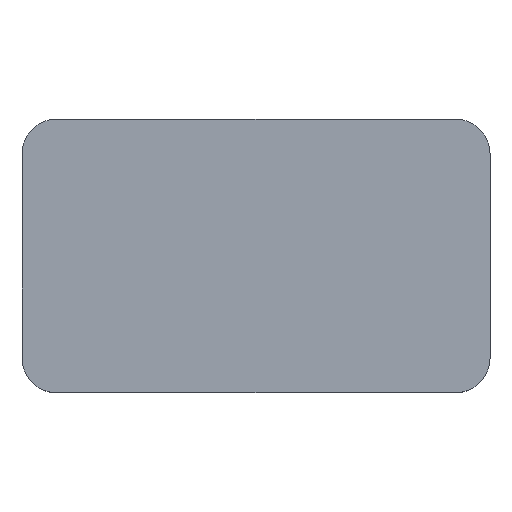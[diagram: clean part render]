
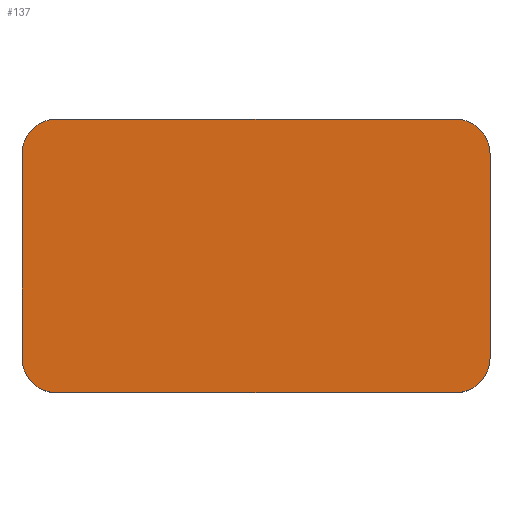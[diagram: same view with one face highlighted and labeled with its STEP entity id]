
A CAD part, top view. The second image highlights one B-rep face of the part: STEP entity #137.
In plain terms, the highlighted planar face has unit normal (0, 0, 1).
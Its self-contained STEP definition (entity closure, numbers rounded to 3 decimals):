
#21 = EDGE_CURVE('',#22,#24,#26,.T.);
#22 = VERTEX_POINT('',#23);
#23 = CARTESIAN_POINT('',(-325.,-142.,120.));
#24 = VERTEX_POINT('',#25);
#25 = CARTESIAN_POINT('',(-325.,142.,120.));
#26 = SURFACE_CURVE('',#27,(#31,#43),.PCURVE_S1.);
#27 = LINE('',#28,#29);
#28 = CARTESIAN_POINT('',(-325.,-190.,120.));
#29 = VECTOR('',#30,1.);
#30 = DIRECTION('',(0.,1.,0.));
#31 = PCURVE('',#32,#37);
#32 = PLANE('',#33);
#33 = AXIS2_PLACEMENT_3D('',#34,#35,#36);
#34 = CARTESIAN_POINT('',(-325.,-190.,0.));
#35 = DIRECTION('',(1.,0.,0.));
#36 = DIRECTION('',(0.,0.,1.));
#37 = DEFINITIONAL_REPRESENTATION('',(#38),#42);
#38 = LINE('',#39,#40);
#39 = CARTESIAN_POINT('',(120.,0.));
#40 = VECTOR('',#41,1.);
#41 = DIRECTION('',(0.,-1.));
#42 = ( GEOMETRIC_REPRESENTATION_CONTEXT(2) 
PARAMETRIC_REPRESENTATION_CONTEXT() REPRESENTATION_CONTEXT('2D SPACE',''
  ) );
#43 = PCURVE('',#44,#49);
#44 = PLANE('',#45);
#45 = AXIS2_PLACEMENT_3D('',#46,#47,#48);
#46 = CARTESIAN_POINT('',(-325.,-190.,120.));
#47 = DIRECTION('',(0.,0.,1.));
#48 = DIRECTION('',(1.,0.,0.));
#49 = DEFINITIONAL_REPRESENTATION('',(#50),#54);
#50 = LINE('',#51,#52);
#51 = CARTESIAN_POINT('',(0.,0.));
#52 = VECTOR('',#53,1.);
#53 = DIRECTION('',(0.,1.));
#54 = ( GEOMETRIC_REPRESENTATION_CONTEXT(2) 
PARAMETRIC_REPRESENTATION_CONTEXT() REPRESENTATION_CONTEXT('2D SPACE',''
  ) );
#72 = CYLINDRICAL_SURFACE('',#73,48.);
#73 = AXIS2_PLACEMENT_3D('',#74,#75,#76);
#74 = CARTESIAN_POINT('',(-277.,-142.,0.));
#75 = DIRECTION('',(0.,0.,1.));
#76 = DIRECTION('',(-1.,-0.,0.));
#126 = CYLINDRICAL_SURFACE('',#127,48.);
#127 = AXIS2_PLACEMENT_3D('',#128,#129,#130);
#128 = CARTESIAN_POINT('',(-277.,142.,0.));
#129 = DIRECTION('',(0.,0.,1.));
#130 = DIRECTION('',(-1.,-0.,0.));
#137 = ADVANCED_FACE('',(#138),#44,.T.);
#138 = FACE_BOUND('',#139,.T.);
#139 = EDGE_LOOP('',(#140,#141,#165,#193,#226,#254,#283,#311));
#140 = ORIENTED_EDGE('',*,*,#21,.F.);
#141 = ORIENTED_EDGE('',*,*,#142,.T.);
#142 = EDGE_CURVE('',#22,#143,#145,.T.);
#143 = VERTEX_POINT('',#144);
#144 = CARTESIAN_POINT('',(-277.,-190.,120.));
#145 = SURFACE_CURVE('',#146,(#151,#158),.PCURVE_S1.);
#146 = CIRCLE('',#147,48.);
#147 = AXIS2_PLACEMENT_3D('',#148,#149,#150);
#148 = CARTESIAN_POINT('',(-277.,-142.,120.));
#149 = DIRECTION('',(0.,0.,1.));
#150 = DIRECTION('',(0.,-1.,0.));
#151 = PCURVE('',#44,#152);
#152 = DEFINITIONAL_REPRESENTATION('',(#153),#157);
#153 = CIRCLE('',#154,48.);
#154 = AXIS2_PLACEMENT_2D('',#155,#156);
#155 = CARTESIAN_POINT('',(48.,48.));
#156 = DIRECTION('',(0.,-1.));
#157 = ( GEOMETRIC_REPRESENTATION_CONTEXT(2) 
PARAMETRIC_REPRESENTATION_CONTEXT() REPRESENTATION_CONTEXT('2D SPACE',''
  ) );
#158 = PCURVE('',#72,#159);
#159 = DEFINITIONAL_REPRESENTATION('',(#160),#164);
#160 = LINE('',#161,#162);
#161 = CARTESIAN_POINT('',(-4.712,120.));
#162 = VECTOR('',#163,1.);
#163 = DIRECTION('',(1.,0.));
#164 = ( GEOMETRIC_REPRESENTATION_CONTEXT(2) 
PARAMETRIC_REPRESENTATION_CONTEXT() REPRESENTATION_CONTEXT('2D SPACE',''
  ) );
#165 = ORIENTED_EDGE('',*,*,#166,.T.);
#166 = EDGE_CURVE('',#143,#167,#169,.T.);
#167 = VERTEX_POINT('',#168);
#168 = CARTESIAN_POINT('',(277.,-190.,120.));
#169 = SURFACE_CURVE('',#170,(#174,#181),.PCURVE_S1.);
#170 = LINE('',#171,#172);
#171 = CARTESIAN_POINT('',(-325.,-190.,120.));
#172 = VECTOR('',#173,1.);
#173 = DIRECTION('',(1.,0.,0.));
#174 = PCURVE('',#44,#175);
#175 = DEFINITIONAL_REPRESENTATION('',(#176),#180);
#176 = LINE('',#177,#178);
#177 = CARTESIAN_POINT('',(0.,0.));
#178 = VECTOR('',#179,1.);
#179 = DIRECTION('',(1.,0.));
#180 = ( GEOMETRIC_REPRESENTATION_CONTEXT(2) 
PARAMETRIC_REPRESENTATION_CONTEXT() REPRESENTATION_CONTEXT('2D SPACE',''
  ) );
#181 = PCURVE('',#182,#187);
#182 = PLANE('',#183);
#183 = AXIS2_PLACEMENT_3D('',#184,#185,#186);
#184 = CARTESIAN_POINT('',(-325.,-190.,0.));
#185 = DIRECTION('',(0.,1.,0.));
#186 = DIRECTION('',(0.,0.,1.));
#187 = DEFINITIONAL_REPRESENTATION('',(#188),#192);
#188 = LINE('',#189,#190);
#189 = CARTESIAN_POINT('',(120.,0.));
#190 = VECTOR('',#191,1.);
#191 = DIRECTION('',(0.,1.));
#192 = ( GEOMETRIC_REPRESENTATION_CONTEXT(2) 
PARAMETRIC_REPRESENTATION_CONTEXT() REPRESENTATION_CONTEXT('2D SPACE',''
  ) );
#193 = ORIENTED_EDGE('',*,*,#194,.F.);
#194 = EDGE_CURVE('',#195,#167,#197,.T.);
#195 = VERTEX_POINT('',#196);
#196 = CARTESIAN_POINT('',(325.,-142.,120.));
#197 = SURFACE_CURVE('',#198,(#203,#214),.PCURVE_S1.);
#198 = CIRCLE('',#199,48.);
#199 = AXIS2_PLACEMENT_3D('',#200,#201,#202);
#200 = CARTESIAN_POINT('',(277.,-142.,120.));
#201 = DIRECTION('',(-0.,-0.,-1.));
#202 = DIRECTION('',(0.,-1.,0.));
#203 = PCURVE('',#44,#204);
#204 = DEFINITIONAL_REPRESENTATION('',(#205),#213);
#205 = ( BOUNDED_CURVE() B_SPLINE_CURVE(2,(#206,#207,#208,#209,#210,#211
,#212),.UNSPECIFIED.,.T.,.F.) B_SPLINE_CURVE_WITH_KNOTS((1,2,2,2,2,1),(
    -2.094,0.,2.094,4.189,6.283,
8.378),.UNSPECIFIED.) CURVE() GEOMETRIC_REPRESENTATION_ITEM() 
RATIONAL_B_SPLINE_CURVE((1.,0.5,1.,0.5,1.,0.5,1.)) REPRESENTATION_ITEM(
  '') );
#206 = CARTESIAN_POINT('',(602.,0.));
#207 = CARTESIAN_POINT('',(518.862,0.));
#208 = CARTESIAN_POINT('',(560.431,72.));
#209 = CARTESIAN_POINT('',(602.,144.));
#210 = CARTESIAN_POINT('',(643.569,72.));
#211 = CARTESIAN_POINT('',(685.138,0.));
#212 = CARTESIAN_POINT('',(602.,0.));
#213 = ( GEOMETRIC_REPRESENTATION_CONTEXT(2) 
PARAMETRIC_REPRESENTATION_CONTEXT() REPRESENTATION_CONTEXT('2D SPACE',''
  ) );
#214 = PCURVE('',#215,#220);
#215 = CYLINDRICAL_SURFACE('',#216,48.);
#216 = AXIS2_PLACEMENT_3D('',#217,#218,#219);
#217 = CARTESIAN_POINT('',(277.,-142.,0.));
#218 = DIRECTION('',(0.,0.,1.));
#219 = DIRECTION('',(1.,0.,-0.));
#220 = DEFINITIONAL_REPRESENTATION('',(#221),#225);
#221 = LINE('',#222,#223);
#222 = CARTESIAN_POINT('',(4.712,120.));
#223 = VECTOR('',#224,1.);
#224 = DIRECTION('',(-1.,0.));
#225 = ( GEOMETRIC_REPRESENTATION_CONTEXT(2) 
PARAMETRIC_REPRESENTATION_CONTEXT() REPRESENTATION_CONTEXT('2D SPACE',''
  ) );
#226 = ORIENTED_EDGE('',*,*,#227,.T.);
#227 = EDGE_CURVE('',#195,#228,#230,.T.);
#228 = VERTEX_POINT('',#229);
#229 = CARTESIAN_POINT('',(325.,142.,120.));
#230 = SURFACE_CURVE('',#231,(#235,#242),.PCURVE_S1.);
#231 = LINE('',#232,#233);
#232 = CARTESIAN_POINT('',(325.,-190.,120.));
#233 = VECTOR('',#234,1.);
#234 = DIRECTION('',(0.,1.,0.));
#235 = PCURVE('',#44,#236);
#236 = DEFINITIONAL_REPRESENTATION('',(#237),#241);
#237 = LINE('',#238,#239);
#238 = CARTESIAN_POINT('',(650.,0.));
#239 = VECTOR('',#240,1.);
#240 = DIRECTION('',(0.,1.));
#241 = ( GEOMETRIC_REPRESENTATION_CONTEXT(2) 
PARAMETRIC_REPRESENTATION_CONTEXT() REPRESENTATION_CONTEXT('2D SPACE',''
  ) );
#242 = PCURVE('',#243,#248);
#243 = PLANE('',#244);
#244 = AXIS2_PLACEMENT_3D('',#245,#246,#247);
#245 = CARTESIAN_POINT('',(325.,-190.,0.));
#246 = DIRECTION('',(1.,0.,0.));
#247 = DIRECTION('',(0.,0.,1.));
#248 = DEFINITIONAL_REPRESENTATION('',(#249),#253);
#249 = LINE('',#250,#251);
#250 = CARTESIAN_POINT('',(120.,0.));
#251 = VECTOR('',#252,1.);
#252 = DIRECTION('',(0.,-1.));
#253 = ( GEOMETRIC_REPRESENTATION_CONTEXT(2) 
PARAMETRIC_REPRESENTATION_CONTEXT() REPRESENTATION_CONTEXT('2D SPACE',''
  ) );
#254 = ORIENTED_EDGE('',*,*,#255,.T.);
#255 = EDGE_CURVE('',#228,#256,#258,.T.);
#256 = VERTEX_POINT('',#257);
#257 = CARTESIAN_POINT('',(277.,190.,120.));
#258 = SURFACE_CURVE('',#259,(#264,#271),.PCURVE_S1.);
#259 = CIRCLE('',#260,48.);
#260 = AXIS2_PLACEMENT_3D('',#261,#262,#263);
#261 = CARTESIAN_POINT('',(277.,142.,120.));
#262 = DIRECTION('',(0.,0.,1.));
#263 = DIRECTION('',(0.,-1.,0.));
#264 = PCURVE('',#44,#265);
#265 = DEFINITIONAL_REPRESENTATION('',(#266),#270);
#266 = CIRCLE('',#267,48.);
#267 = AXIS2_PLACEMENT_2D('',#268,#269);
#268 = CARTESIAN_POINT('',(602.,332.));
#269 = DIRECTION('',(0.,-1.));
#270 = ( GEOMETRIC_REPRESENTATION_CONTEXT(2) 
PARAMETRIC_REPRESENTATION_CONTEXT() REPRESENTATION_CONTEXT('2D SPACE',''
  ) );
#271 = PCURVE('',#272,#277);
#272 = CYLINDRICAL_SURFACE('',#273,48.);
#273 = AXIS2_PLACEMENT_3D('',#274,#275,#276);
#274 = CARTESIAN_POINT('',(277.,142.,0.));
#275 = DIRECTION('',(0.,0.,1.));
#276 = DIRECTION('',(1.,0.,-0.));
#277 = DEFINITIONAL_REPRESENTATION('',(#278),#282);
#278 = LINE('',#279,#280);
#279 = CARTESIAN_POINT('',(-1.571,120.));
#280 = VECTOR('',#281,1.);
#281 = DIRECTION('',(1.,0.));
#282 = ( GEOMETRIC_REPRESENTATION_CONTEXT(2) 
PARAMETRIC_REPRESENTATION_CONTEXT() REPRESENTATION_CONTEXT('2D SPACE',''
  ) );
#283 = ORIENTED_EDGE('',*,*,#284,.F.);
#284 = EDGE_CURVE('',#285,#256,#287,.T.);
#285 = VERTEX_POINT('',#286);
#286 = CARTESIAN_POINT('',(-277.,190.,120.));
#287 = SURFACE_CURVE('',#288,(#292,#299),.PCURVE_S1.);
#288 = LINE('',#289,#290);
#289 = CARTESIAN_POINT('',(-325.,190.,120.));
#290 = VECTOR('',#291,1.);
#291 = DIRECTION('',(1.,0.,0.));
#292 = PCURVE('',#44,#293);
#293 = DEFINITIONAL_REPRESENTATION('',(#294),#298);
#294 = LINE('',#295,#296);
#295 = CARTESIAN_POINT('',(0.,380.));
#296 = VECTOR('',#297,1.);
#297 = DIRECTION('',(1.,0.));
#298 = ( GEOMETRIC_REPRESENTATION_CONTEXT(2) 
PARAMETRIC_REPRESENTATION_CONTEXT() REPRESENTATION_CONTEXT('2D SPACE',''
  ) );
#299 = PCURVE('',#300,#305);
#300 = PLANE('',#301);
#301 = AXIS2_PLACEMENT_3D('',#302,#303,#304);
#302 = CARTESIAN_POINT('',(-325.,190.,0.));
#303 = DIRECTION('',(0.,1.,0.));
#304 = DIRECTION('',(0.,0.,1.));
#305 = DEFINITIONAL_REPRESENTATION('',(#306),#310);
#306 = LINE('',#307,#308);
#307 = CARTESIAN_POINT('',(120.,0.));
#308 = VECTOR('',#309,1.);
#309 = DIRECTION('',(0.,1.));
#310 = ( GEOMETRIC_REPRESENTATION_CONTEXT(2) 
PARAMETRIC_REPRESENTATION_CONTEXT() REPRESENTATION_CONTEXT('2D SPACE',''
  ) );
#311 = ORIENTED_EDGE('',*,*,#312,.F.);
#312 = EDGE_CURVE('',#24,#285,#313,.T.);
#313 = SURFACE_CURVE('',#314,(#319,#330),.PCURVE_S1.);
#314 = CIRCLE('',#315,48.);
#315 = AXIS2_PLACEMENT_3D('',#316,#317,#318);
#316 = CARTESIAN_POINT('',(-277.,142.,120.));
#317 = DIRECTION('',(-0.,-0.,-1.));
#318 = DIRECTION('',(0.,-1.,0.));
#319 = PCURVE('',#44,#320);
#320 = DEFINITIONAL_REPRESENTATION('',(#321),#329);
#321 = ( BOUNDED_CURVE() B_SPLINE_CURVE(2,(#322,#323,#324,#325,#326,#327
,#328),.UNSPECIFIED.,.T.,.F.) B_SPLINE_CURVE_WITH_KNOTS((1,2,2,2,2,1),(
    -2.094,0.,2.094,4.189,6.283,
8.378),.UNSPECIFIED.) CURVE() GEOMETRIC_REPRESENTATION_ITEM() 
RATIONAL_B_SPLINE_CURVE((1.,0.5,1.,0.5,1.,0.5,1.)) REPRESENTATION_ITEM(
  '') );
#322 = CARTESIAN_POINT('',(48.,284.));
#323 = CARTESIAN_POINT('',(-35.138,284.));
#324 = CARTESIAN_POINT('',(6.431,356.));
#325 = CARTESIAN_POINT('',(48.,428.));
#326 = CARTESIAN_POINT('',(89.569,356.));
#327 = CARTESIAN_POINT('',(131.138,284.));
#328 = CARTESIAN_POINT('',(48.,284.));
#329 = ( GEOMETRIC_REPRESENTATION_CONTEXT(2) 
PARAMETRIC_REPRESENTATION_CONTEXT() REPRESENTATION_CONTEXT('2D SPACE',''
  ) );
#330 = PCURVE('',#126,#331);
#331 = DEFINITIONAL_REPRESENTATION('',(#332),#336);
#332 = LINE('',#333,#334);
#333 = CARTESIAN_POINT('',(1.571,120.));
#334 = VECTOR('',#335,1.);
#335 = DIRECTION('',(-1.,0.));
#336 = ( GEOMETRIC_REPRESENTATION_CONTEXT(2) 
PARAMETRIC_REPRESENTATION_CONTEXT() REPRESENTATION_CONTEXT('2D SPACE',''
  ) );
